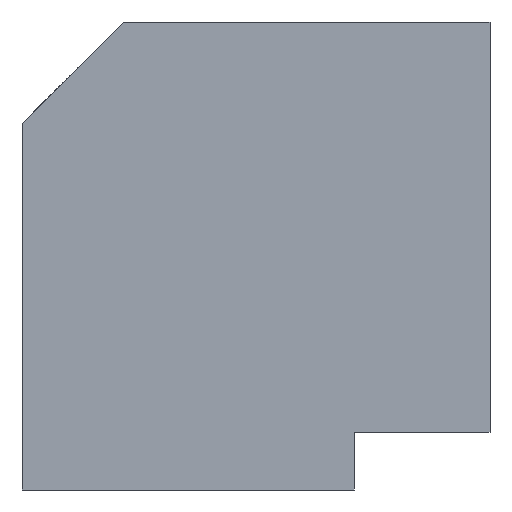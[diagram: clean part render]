
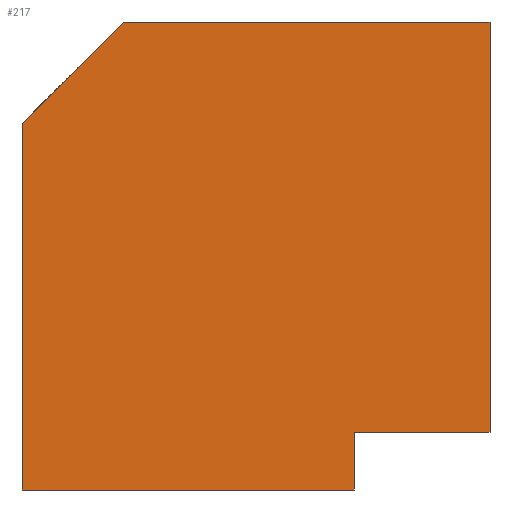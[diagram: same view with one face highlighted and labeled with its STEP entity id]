
A CAD part, left-side view. The second image highlights one B-rep face of the part: STEP entity #217.
In plain terms, the highlighted planar face has unit normal (-1, 0, 0).
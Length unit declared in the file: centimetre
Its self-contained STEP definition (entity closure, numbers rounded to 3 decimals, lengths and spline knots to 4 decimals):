
#23 = LINE ( 'NONE', #420, #504 ) ;
#28 = CARTESIAN_POINT ( 'NONE',  ( 0., 0., 1000. ) ) ;
#31 = CARTESIAN_POINT ( 'NONE',  ( 0., 1000., 1000. ) ) ;
#56 = CARTESIAN_POINT ( 'NONE',  ( 0., 782.5995, 1000. ) ) ;
#61 = ORIENTED_EDGE ( 'NONE', *, *, #106, .T. ) ;
#96 = DIRECTION ( 'NONE',  ( 0., -1., 0. ) ) ;
#99 = ORIENTED_EDGE ( 'NONE', *, *, #838, .T. ) ;
#106 = EDGE_CURVE ( 'NONE', #1162, #383, #811, .T. ) ;
#127 = FACE_OUTER_BOUND ( 'NONE', #1230, .T. ) ;
#133 = DIRECTION ( 'NONE',  ( 0., 0., -1. ) ) ;
#137 = CARTESIAN_POINT ( 'NONE',  ( 0., 0., 123.0133 ) ) ;
#144 = CARTESIAN_POINT ( 'NONE',  ( 0., 290.2839, 123.0133 ) ) ;
#198 = ORIENTED_EDGE ( 'NONE', *, *, #259, .T. ) ;
#217 = ADVANCED_FACE ( 'NONE', ( #127 ), #521, .F. ) ;
#239 = VERTEX_POINT ( 'NONE', #144 ) ;
#259 = EDGE_CURVE ( 'NONE', #1072, #407, #1132, .T. ) ;
#277 = DIRECTION ( 'NONE',  ( 0., -1., 0. ) ) ;
#317 = DIRECTION ( 'NONE',  ( 0., 0., 1. ) ) ;
#340 = ORIENTED_EDGE ( 'NONE', *, *, #592, .F. ) ;
#344 = VECTOR ( 'NONE', #277, 100. ) ;
#383 = VERTEX_POINT ( 'NONE', #934 ) ;
#407 = VERTEX_POINT ( 'NONE', #1225 ) ;
#420 = CARTESIAN_POINT ( 'NONE',  ( 0., 1000., 1000. ) ) ;
#457 = CARTESIAN_POINT ( 'NONE',  ( 0., 1000., 0. ) ) ;
#504 = VECTOR ( 'NONE', #525, 100. ) ;
#509 = CARTESIAN_POINT ( 'NONE',  ( 0., 290.2839, 0. ) ) ;
#521 = PLANE ( 'NONE',  #610 ) ;
#525 = DIRECTION ( 'NONE',  ( 0., 0., -1. ) ) ;
#592 = EDGE_CURVE ( 'NONE', #1072, #763, #973, .T. ) ;
#608 = CARTESIAN_POINT ( 'NONE',  ( 0., 0., 123.0133 ) ) ;
#610 = AXIS2_PLACEMENT_3D ( 'NONE', #31, #1020, #133 ) ;
#631 = ORIENTED_EDGE ( 'NONE', *, *, #935, .T. ) ;
#632 = VECTOR ( 'NONE', #1197, 100. ) ;
#763 = VERTEX_POINT ( 'NONE', #28 ) ;
#790 = VECTOR ( 'NONE', #96, 100. ) ;
#811 = LINE ( 'NONE', #905, #790 ) ;
#819 = VERTEX_POINT ( 'NONE', #137 ) ;
#838 = EDGE_CURVE ( 'NONE', #407, #1162, #23, .T. ) ;
#855 = ORIENTED_EDGE ( 'NONE', *, *, #1170, .F. ) ;
#861 = DIRECTION ( 'NONE',  ( 0., 0., -1. ) ) ;
#905 = CARTESIAN_POINT ( 'NONE',  ( 0., 1000., 0. ) ) ;
#934 = CARTESIAN_POINT ( 'NONE',  ( 0., 290.2839, 0. ) ) ;
#935 = EDGE_CURVE ( 'NONE', #239, #819, #1186, .T. ) ;
#971 = EDGE_CURVE ( 'NONE', #383, #239, #1095, .T. ) ;
#973 = LINE ( 'NONE', #1152, #344 ) ;
#1020 = DIRECTION ( 'NONE',  ( 1., 0., 0. ) ) ;
#1023 = CARTESIAN_POINT ( 'NONE',  ( 0., 782.5995, 1000. ) ) ;
#1047 = LINE ( 'NONE', #1235, #1241 ) ;
#1067 = ORIENTED_EDGE ( 'NONE', *, *, #971, .T. ) ;
#1072 = VERTEX_POINT ( 'NONE', #56 ) ;
#1095 = LINE ( 'NONE', #509, #1239 ) ;
#1132 = LINE ( 'NONE', #1023, #632 ) ;
#1152 = CARTESIAN_POINT ( 'NONE',  ( 0., 1000., 1000. ) ) ;
#1162 = VERTEX_POINT ( 'NONE', #457 ) ;
#1170 = EDGE_CURVE ( 'NONE', #763, #819, #1047, .T. ) ;
#1186 = LINE ( 'NONE', #608, #1260 ) ;
#1191 = DIRECTION ( 'NONE',  ( 0., -1., 0. ) ) ;
#1197 = DIRECTION ( 'NONE',  ( 0., 0.707, -0.707 ) ) ;
#1225 = CARTESIAN_POINT ( 'NONE',  ( 0., 1000., 782.5995 ) ) ;
#1230 = EDGE_LOOP ( 'NONE', ( #1067, #631, #855, #340, #198, #99, #61 ) ) ;
#1235 = CARTESIAN_POINT ( 'NONE',  ( 0., 0., 1000. ) ) ;
#1239 = VECTOR ( 'NONE', #317, 100. ) ;
#1241 = VECTOR ( 'NONE', #861, 100. ) ;
#1260 = VECTOR ( 'NONE', #1191, 100. ) ;
